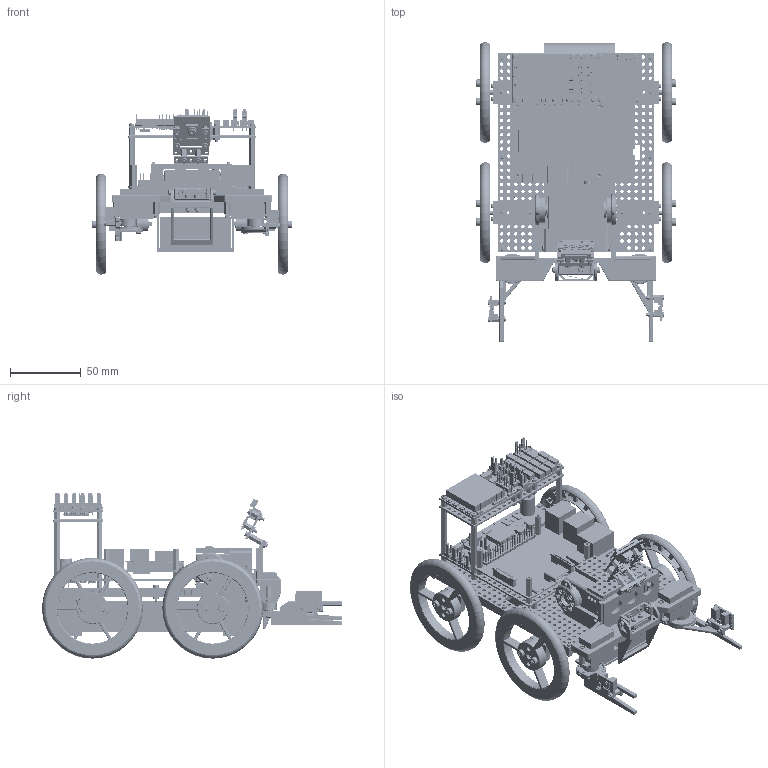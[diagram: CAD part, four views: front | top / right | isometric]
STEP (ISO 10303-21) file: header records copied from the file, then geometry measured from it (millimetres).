
FILE_DESCRIPTION(/* description */ (''),/* implementation_level */ '2;1');
FILE_NAME(/* name */ 'mrm-rob-rpi-mod.step',/* time_stamp */ '2025-10-09T05:46:09+02:00',/* author */ (''),/* organization */ (''),/* preprocessor_version */ 'ST-DEVELOPER v20.1',/* originating_system */ 'Autodesk Translation Framework v14.17.0.0',/* authorisation */ '');
FILE_SCHEMA (('AUTOMOTIVE_DESIGN { 1 0 10303 214 3 1 1 }'));
Products named in the file (181): Robot modular RPI; Chassis modular 110x140; N20MotorHolder; N20 Motor; mrm-bolt6m1.6met; mrm-hub3; wheel70; wheel70_1; wheel70_2; wheel70_3; mrm-bolt6m3nyl; BatterHolderTurnigy5000; Chassis modular 110x140_1; mrm-mot4x3.6can; PCB Component; Board; MICROCHIP_MCP1725T-ADJE/MC; NEXPERIA_BUK6D43-40PX; 100nF/50V; 2kOhm; VISHAY_SI2347DS-T1-GE3; STM32F042G6U6; SML-P11MTT86R; 1.5kOhm/0603; TI_DRV8871DDA; TI_DRV8871DDA_1; TI_DRV8871DDA_2; TI_DRV8871DDA_3; Body; PinsArrayLR; ThermalPad; MOLEX_22-27-2021; MOLEX_1718130002; JST_BM04B-GHK-TBT; CONN_051X05_PINLESS; FIDUCIAL1X2; PANASONIC_EEEFT1H331GP; MICROCHIP_ATA6561-GBQW-N; EPSON_TSX-3225; mrm-ps2xc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
Assembly tree (561 placements, depth 6):
  Robot modular RPI
    Chassis modular 110x140
    N20MotorHolder  x4
    mrm-bolt5m2nyl  x35
    mrm-nut-m2nyl  x70
    N20 Motor  x4
    mrm-bolt6m1.6met  x8
    mrm-hub3  x4
    wheel70
    wheel70_1
    wheel70_2
    wheel70_3
    mrm-bolt6m3nyl  x8
    BatterHolderTurnigy5000  x2
    mrm-bolt6m2nyl  x17
    Chassis modular 110x140_1
    mrm-spac5m2nyl  x36
    mrm-mot4x3.6can
      PCB Component
        Board
        MICROCHIP_MCP1725T-ADJE/MC
        NEXPERIA_BUK6D43-40PX
        100nF/50V  x15
        2kOhm  x7
        VISHAY_SI2347DS-T1-GE3
        STM32F042G6U6
        SML-P11MTT86R
        1.5kOhm/0603
        TI_DRV8871DDA
          Body
          PinsArrayLR
          ThermalPad
        TI_DRV8871DDA_1
          Body
          PinsArrayLR
          ThermalPad
        TI_DRV8871DDA_2
          Body
          PinsArrayLR
          ThermalPad
        TI_DRV8871DDA_3
          Body
          PinsArrayLR
          ThermalPad
        MOLEX_22-27-2021  x4
        MOLEX_1718130002  x2
        JST_BM04B-GHK-TBT  x2
        CONN_051X05_PINLESS
        FIDUCIAL1X2  x2
        PANASONIC_EEEFT1H331GP
        MICROCHIP_ATA6561-GBQW-N
        EPSON_TSX-3225
    mrm-ps2xc
      Board_1
      1-copper
      16-copper
      1-soldermask
      16-soldermask
      Packages
        BOURNS_SRP1235R68M
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Bounding box: 140.92 x 211.97 x 116.83 mm (x, y, z)
Volume: 392704.3 mm3; surface area: 359713 mm2
Topology: 1757 solids, 1763 shells, 51705 faces, 137745 edges, 90825 vertices
Faces by surface type: plane 36579, cylinder 11673, sphere 1783, bspline 1368, torus 229, cone 73
Full cylindrical faces by diameter (mm): 0.23 x1215, 0.28 x3, 0.3 x1992, 0.35 x6, 0.375 x1, 0.487 x4, 0.53 x50, 0.6 x64, 0.65 x2, 0.78 x10, 0.85 x8, 0.882 x1, 0.946 x15, 0.98 x10, 1.016 x36, 1.04 x20, 1.05 x20, 1.11 x36, 1.25 x8, 1.5 x15, 1.639 x11, 1.65 x4, 1.7 x9, 1.8 x8, 1.83 x30, 1.9 x24, 1.933 x122, 2 x210, 2.25 x8, 2.33 x2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
Entity records: 1161590 total; most frequent: CARTESIAN_POINT 223377, ORIENTED_EDGE 191127, DIRECTION 181775, EDGE_CURVE 95577, LINE 78447, VECTOR 78447, VERTEX_POINT 63181, AXIS2_PLACEMENT_3D 51664
